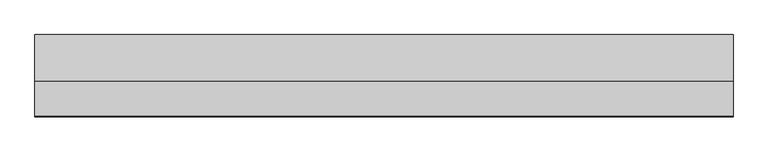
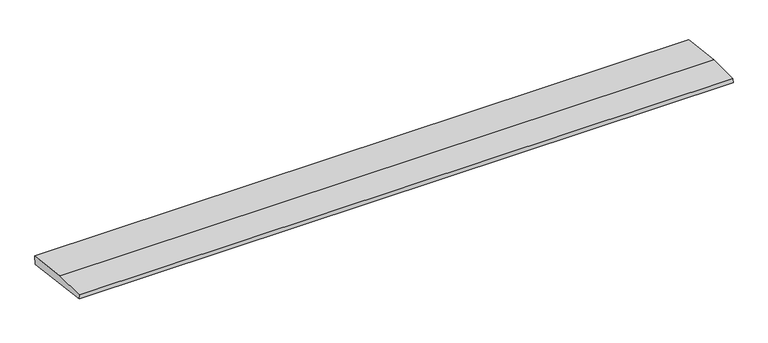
"""IFC4 building model written with IfcOpenShell, lengths in millimetres: beam geometry, weatherboad : weatherboad."""

import ifcopenshell
import ifcopenshell.guid

model = None  # the IFC model being written
_history = None  # IfcOwnerHistory: only IFC2X3 demands one
_inside = {}  # id of a spatial element -> (the spatial element, [elements in it])
_under = {}  # id of a project, library or spatial element -> (it, [spatial elements below it])
_declared = {}  # id of a project -> (the project, [libraries it declares])
_typed = {}  # id of a type object -> (the type object, [elements of that type])
_made_of = {}  # id of a material, layer set ... -> (it, [elements and type objects made of it])


def new_model(schema):
    """Start an empty IFC model of exactly this schema.

    Asked for "IFC4X3", IfcOpenShell would pick the latest addendum, in which some entities
    have other attributes; the version numbers below select the first issue.
    IFC2X3 requires an IfcOwnerHistory on every rooted entity: one is made here for all.
    """
    global model, _history
    if schema == "IFC4X3":
        model = ifcopenshell.file(schema_version=(4, 3, 0, 0))
    else:
        model = ifcopenshell.file(schema=schema)
    _inside.clear()
    _under.clear()
    _declared.clear()
    _typed.clear()
    _made_of.clear()
    _history = None
    if model.schema == "IFC2X3":
        org = make("IfcOrganization", Name="unknown")
        user = make(
            "IfcPersonAndOrganization",
            ThePerson=make("IfcPerson", FamilyName="unknown"),
            TheOrganization=org,
        )
        app = make(
            "IfcApplication",
            ApplicationDeveloper=org,
            Version="unknown",
            ApplicationFullName="unknown",
            ApplicationIdentifier="unknown",
        )
        _history = make(
            "IfcOwnerHistory",
            OwningUser=user,
            OwningApplication=app,
            ChangeAction="ADDED",
            CreationDate=0,
        )
    return model


def make(cls, **values):
    """One entity of the class cls with the attributes given. An attribute that is None is left unset."""
    return model.create_entity(
        cls, **{name: value for name, value in values.items() if value is not None}
    )


def rooted(cls, **values):
    """An entity with a GlobalId (a new one), such as an element, a storey or a relation."""
    return make(cls, GlobalId=ifcopenshell.guid.new(), OwnerHistory=_history, **values)


def si_unit(unit_type, name, prefix=None):
    """IfcSIUnit, for example si_unit("LENGTHUNIT", "METRE", prefix="MILLI")."""
    return make("IfcSIUnit", UnitType=unit_type, Prefix=prefix, Name=name)


def assignment(units):
    """IfcUnitAssignment: the units of a project."""
    return None if units is None else make("IfcUnitAssignment", Units=units)


def point(xyz):
    """IfcCartesianPoint."""
    return None if xyz is None else make("IfcCartesianPoint", Coordinates=xyz)


def direction(xyz):
    """IfcDirection."""
    return None if xyz is None else make("IfcDirection", DirectionRatios=xyz)


def frame(location, z_axis=None, x_axis=None):
    """IfcAxis2Placement3D, a coordinate frame: its origin and axes. An axis left out is left unset."""
    return make(
        "IfcAxis2Placement3D",
        Location=point(location),
        Axis=direction(z_axis),
        RefDirection=direction(x_axis),
    )


def origin():
    """The frame at (0, 0, 0) with its axes left unset."""
    return frame((0.0, 0.0, 0.0))


def place(relative_to, where):
    """IfcLocalPlacement: puts the frame where relative to a parent placement (None: the world)."""
    return make(
        "IfcLocalPlacement", PlacementRelTo=relative_to, RelativePlacement=where
    )


def context(
    kind, dimensions, precision=None, world=None, true_north=None, identifier=None
):
    """IfcGeometricRepresentationContext, for example the 3D "Model" context."""
    return make(
        "IfcGeometricRepresentationContext",
        ContextIdentifier=identifier,
        ContextType=kind,
        CoordinateSpaceDimension=dimensions,
        Precision=precision,
        WorldCoordinateSystem=world,
        TrueNorth=true_north,
    )


def project(units=None, contexts=None):
    """IfcProject with its units and contexts."""
    return rooted(
        "IfcProject",
        Name="project",
        RepresentationContexts=contexts,
        UnitsInContext=assignment(units),
    )


def spatial(cls, under=None, at=None, **own):
    """A site, building, storey or space (cls), placed at a placement, below another one or the project."""
    s = rooted(cls, ObjectPlacement=at, **own)
    if under is not None:
        _under.setdefault(under.id(), (under, []))[1].append(s)
    return s


def polyline(points):
    """IfcPolyline through the points."""
    return make("IfcPolyline", Points=[point(p) for p in points])


def outline(outer, holes=None, kind="AREA"):
    """IfcArbitraryClosedProfileDef: a profile drawn as a closed curve; with holes, ...WithVoids."""
    if holes is None:
        return make("IfcArbitraryClosedProfileDef", ProfileType=kind, OuterCurve=outer)
    return make(
        "IfcArbitraryProfileDefWithVoids",
        ProfileType=kind,
        OuterCurve=outer,
        InnerCurves=holes,
    )


def extrude(swept, where, along, depth):
    """IfcExtrudedAreaSolid: the profile swept, set in the frame where, extruded along a direction by depth."""
    return make(
        "IfcExtrudedAreaSolid",
        SweptArea=swept,
        Position=where,
        ExtrudedDirection=direction(along),
        Depth=depth,
    )


def shape(context_of_items, identifier, shape_type, items):
    """IfcShapeRepresentation: the items that make up one representation, for example the "Body"."""
    return make(
        "IfcShapeRepresentation",
        ContextOfItems=context_of_items,
        RepresentationIdentifier=identifier,
        RepresentationType=shape_type,
        Items=items,
    )


def source(mapping_origin, context_of_items, identifier, shape_type, items):
    """IfcRepresentationMap: a shape defined once, which mapped items show again and again."""
    return make(
        "IfcRepresentationMap",
        MappingOrigin=mapping_origin,
        MappedRepresentation=shape(context_of_items, identifier, shape_type, items),
    )


def transform(
    local_origin,
    x_axis=None,
    y_axis=None,
    z_axis=None,
    scale=None,
    scale2=None,
    scale3=None,
    uniform=True,
):
    """IfcCartesianTransformationOperator3D, or its non-uniform kind. x_axis, y_axis, z_axis: its Axis1, 2, 3."""
    if uniform:
        return make(
            "IfcCartesianTransformationOperator3D",
            Axis1=direction(x_axis),
            Axis2=direction(y_axis),
            LocalOrigin=point(local_origin),
            Scale=scale,
            Axis3=direction(z_axis),
        )
    return make(
        "IfcCartesianTransformationOperator3DnonUniform",
        Axis1=direction(x_axis),
        Axis2=direction(y_axis),
        LocalOrigin=point(local_origin),
        Scale=scale,
        Axis3=direction(z_axis),
        Scale2=scale2,
        Scale3=scale3,
    )


def mapped(mapping_source, mapping_target):
    """IfcMappedItem: shows the shape of a source again, moved by a transform."""
    return make(
        "IfcMappedItem", MappingSource=mapping_source, MappingTarget=mapping_target
    )


def made_of(thing, what):
    """Note that an element or type object is made of a material, layer set ...; save() writes the relation."""
    if what is not None:
        _made_of.setdefault(what.id(), (what, []))[1].append(thing)
    return thing


def element(
    cls,
    number,
    at=None,
    inside=None,
    cuts=None,
    type_object=None,
    material=None,
    context=None,
    identifier="Body",
    shape_type=None,
    held_by="IfcProductDefinitionShape",
    body=None,
    shapes=None,
    **own,
):
    """One element of the class cls, such as IfcWall. Its Tag is "e" and its number.

    at: its placement. inside: the storey or other place that contains it. cuts: it is an
    opening in that element (IfcRelVoidsElement). A single representation is given by context,
    identifier, shape_type and body (its items); several are given by shapes. held_by: the class
    of the entity that holds the representations. save() writes the other relations.
    """
    e = rooted(cls, Tag="e%d" % number, ObjectPlacement=at, **own)
    if body is not None:
        shapes = [shape(context, identifier, shape_type, body)]
    if shapes is not None:
        e.Representation = make(held_by, Representations=shapes)
    if inside is not None:
        _inside.setdefault(inside.id(), (inside, []))[1].append(e)
    if cuts is not None:
        rooted(
            "IfcRelVoidsElement", RelatingBuildingElement=cuts, RelatedOpeningElement=e
        )
    if type_object is not None:
        _typed.setdefault(type_object.id(), (type_object, []))[1].append(e)
    return made_of(e, material)


def aggregate(whole, parts):
    """IfcRelAggregates: a whole, such as a stair, and the parts it consists of."""
    return rooted("IfcRelAggregates", RelatingObject=whole, RelatedObjects=parts)


def save(model, path):
    """Write the relations noted so far, then the file.

    IfcRelAggregates (storeys below a building ...), IfcRelContainedInSpatialStructure (elements
    in a storey), IfcRelDefinesByType, IfcRelAssociatesMaterial and IfcRelDeclares: one each for
    every whole, place, type object, material and project.
    """
    for whole, parts in _under.values():
        aggregate(whole, parts)
    for where, things in _inside.values():
        rooted(
            "IfcRelContainedInSpatialStructure",
            RelatedElements=things,
            RelatingStructure=where,
        )
    for kind, things in _typed.values():
        rooted("IfcRelDefinesByType", RelatedObjects=things, RelatingType=kind)
    for what, things in _made_of.values():
        rooted("IfcRelAssociatesMaterial", RelatedObjects=things, RelatingMaterial=what)
    for by, libraries in _declared.values():
        rooted("IfcRelDeclares", RelatingContext=by, RelatedDefinitions=libraries)
    model.write(path)


def beam_2cd5924f(model_context):
    return source(origin(), model_context, "Body", "SweptSolid", [
        extrude(outline(polyline([(0.0, -9.143159), (1.1226388, 0.0), (79.0749747, 0.0), (180.9387048, -12.5072934), (178.6231873, -31.3656703), (0.0, -9.143159)])), frame((-766.1389353, 0.0, 0.0), z_axis=(1.0, 0.0, 0.0), x_axis=(0.0, 1.0, 0.0)), (0.0, 0.0, 1.0), 1532.2778706),
    ])


if __name__ == "__main__":
    model = new_model("IFC4")
    model_context = context("Model", 3, world=origin())
    ifc_project = project(units=[si_unit("LENGTHUNIT", "METRE", prefix="MILLI")], contexts=[model_context])
    site = spatial("IfcSite", under=ifc_project)
    building = spatial("IfcBuilding", under=site)
    placement = place(None, origin())
    beam_shape = beam_2cd5924f(model_context)
    element("IfcBeam", 1, ObjectType="weatherboad : weatherboad", at=placement, inside=building, context=model_context, shape_type="MappedRepresentation", body=[
        mapped(beam_shape, transform((0.0, 0.0, 0.0), x_axis=(1.0, 0.0, 0.0), y_axis=(0.0, 1.0, 0.0), z_axis=(0.0, 0.0, 1.0))),
    ])
    save(model, "model.ifc")
